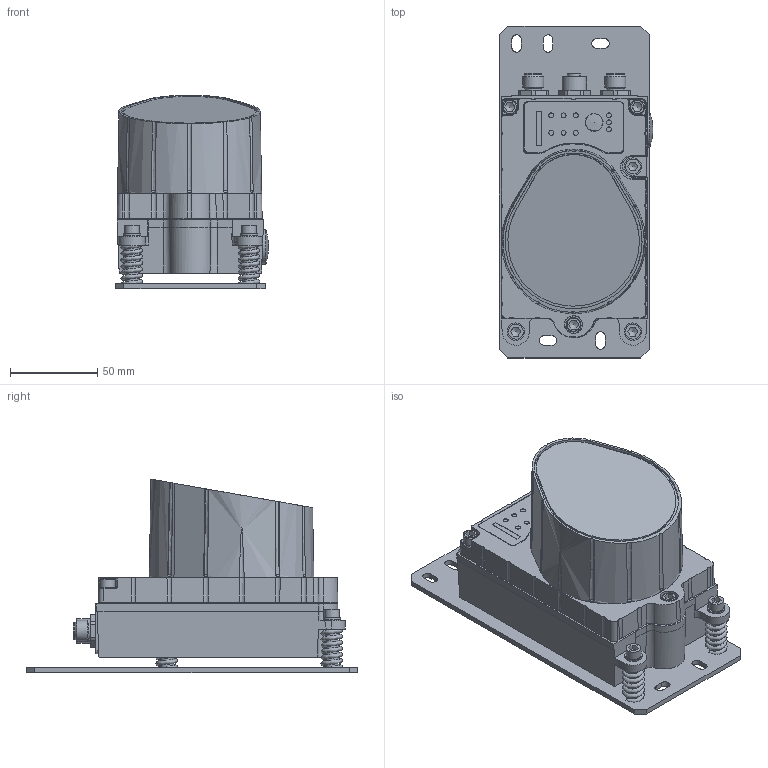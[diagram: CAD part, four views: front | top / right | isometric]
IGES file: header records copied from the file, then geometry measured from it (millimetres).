
Global section: file name: E:\temp\ddls200_profibus_10_m12.igs; preprocessor: I-DEAS 3D IGES Translator 11; date: 20070104.101807; units: millimetre
Bounding box: 87.94 x 190 x 110.8 mm (x, y, z)
Volume: 810441.8 mm3; surface area: 102356.1 mm2
Topology: 1 solids, 1 shells, 489 faces, 1263 edges, 825 vertices
Faces by surface type: bspline 489
